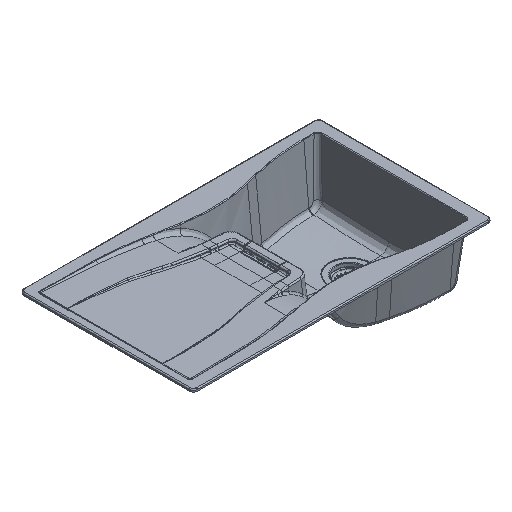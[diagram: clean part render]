
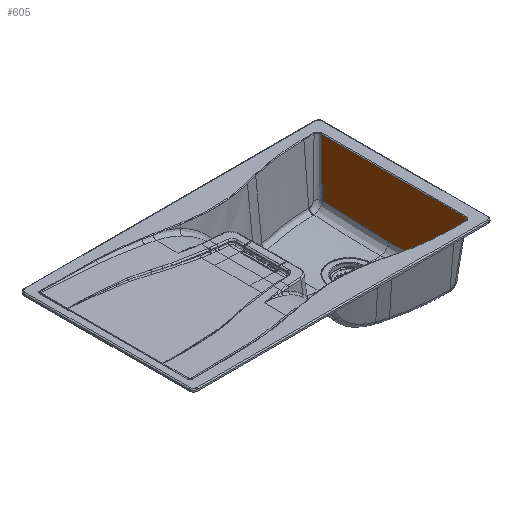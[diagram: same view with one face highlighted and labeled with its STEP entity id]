
A CAD part, isometric view. The second image highlights one B-rep face of the part: STEP entity #605.
In plain terms, the highlighted planar face has unit normal (-0.996, 0, 0.087).
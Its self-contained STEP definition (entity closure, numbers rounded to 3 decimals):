
#605=ADVANCED_FACE('',(#1263),#8994,.T.);
#1263=FACE_OUTER_BOUND('',#1921,.T.);
#1921=EDGE_LOOP('',(#4572,#4573,#4574,#4575,#4576));
#4572=ORIENTED_EDGE('',*,*,#6125,.T.);
#4573=ORIENTED_EDGE('',*,*,#6308,.T.);
#4574=ORIENTED_EDGE('',*,*,#6317,.T.);
#4575=ORIENTED_EDGE('',*,*,#6314,.T.);
#4576=ORIENTED_EDGE('',*,*,#6309,.T.);
#6125=EDGE_CURVE('',#8729,#8728,#7643,.T.);
#6308=EDGE_CURVE('',#8728,#8838,#7826,.T.);
#6309=EDGE_CURVE('',#8839,#8729,#7827,.T.);
#6314=EDGE_CURVE('',#8841,#8839,#7832,.T.);
#6317=EDGE_CURVE('',#8838,#8841,#7835,.T.);
#7643=B_SPLINE_CURVE_WITH_KNOTS('',1,(#69678,#69679),.UNSPECIFIED.,.F.,
 .F.,(2,2),(2.,3.),.UNSPECIFIED.);
#7826=B_SPLINE_CURVE_WITH_KNOTS('',3,(#71934,#71935,#71936,#71937,#71938,
#71939,#71940,#71941,#71942,#71943),.UNSPECIFIED.,.F.,.F.,(4,1,1,1,1,1,
1,4),(1.,1.143,1.286,1.429,1.571,
1.714,1.857,2.),.UNSPECIFIED.);
#7827=B_SPLINE_CURVE_WITH_KNOTS('',3,(#71944,#71945,#71946,#71947,#71948,
#71949,#71950,#71951,#71952,#71953),.UNSPECIFIED.,.F.,.F.,(4,1,1,1,1,1,
1,4),(3.,3.143,3.286,3.429,3.571,
3.714,3.857,4.),.UNSPECIFIED.);
#7832=B_SPLINE_CURVE_WITH_KNOTS('',3,(#72103,#72104,#72105,#72106,#72107,
#72108,#72109,#72110,#72111,#72112,#72113,#72114,#72115,#72116,#72117,#72118,
#72119,#72120,#72121,#72122,#72123,#72124,#72125,#72126,#72127,#72128,#72129,
#72130,#72131,#72132,#72133,#72134,#72135,#72136,#72137,#72138,#72139,#72140,
#72141),.UNSPECIFIED.,.F.,.F.,(4,1,1,1,1,1,1,1,1,1,1,1,1,1,1,1,1,1,1,1,
1,1,1,1,1,1,1,1,1,1,1,1,1,1,1,1,4),(3.,3.028,3.056,
3.083,3.111,3.139,3.167,3.194,
3.222,3.25,3.278,3.306,3.333,3.361,
3.389,3.417,3.444,3.472,3.5,3.528,
3.556,3.583,3.611,3.639,3.667,
3.694,3.722,3.75,3.778,3.806,3.833,
3.861,3.889,3.917,3.944,3.972,
4.),.UNSPECIFIED.);
#7835=B_SPLINE_CURVE_WITH_KNOTS('',3,(#72217,#72218,#72219,#72220,#72221,
#72222,#72223,#72224,#72225,#72226,#72227,#72228,#72229,#72230,#72231,#72232,
#72233,#72234,#72235,#72236,#72237,#72238,#72239,#72240,#72241,#72242,#72243,
#72244,#72245,#72246,#72247,#72248,#72249,#72250,#72251,#72252,#72253,#72254,
#72255),.UNSPECIFIED.,.F.,.F.,(4,1,1,1,1,1,1,1,1,1,1,1,1,1,1,1,1,1,1,1,
1,1,1,1,1,1,1,1,1,1,1,1,1,1,1,1,4),(1.,1.028,1.056,
1.083,1.111,1.139,1.167,1.194,
1.222,1.25,1.278,1.306,1.333,1.361,
1.389,1.417,1.444,1.472,1.5,1.528,
1.556,1.583,1.611,1.639,1.667,
1.694,1.722,1.75,1.778,1.806,1.833,
1.861,1.889,1.917,1.944,1.972,
2.),.UNSPECIFIED.);
#8728=VERTEX_POINT('',#65110);
#8729=VERTEX_POINT('',#65111);
#8838=VERTEX_POINT('',#65220);
#8839=VERTEX_POINT('',#65221);
#8841=VERTEX_POINT('',#65223);
#8994=PLANE('',#9566);
#9566=AXIS2_PLACEMENT_3D('',#59726,#9619,$);
#9619=DIRECTION('',(-0.996,0.,0.087));
#59726=CARTESIAN_POINT('',(415.411,151.066,1.33));
#65110=CARTESIAN_POINT('',(415.135,142.795,-1.826));
#65111=CARTESIAN_POINT('',(415.135,-270.795,-1.826));
#65220=CARTESIAN_POINT('',(401.897,127.235,-153.127));
#65221=CARTESIAN_POINT('',(401.897,-255.235,-153.127));
#65223=CARTESIAN_POINT('',(401.332,-64.,-159.586));
#69678=CARTESIAN_POINT('',(415.135,-270.795,-1.826));
#69679=CARTESIAN_POINT('',(415.135,142.795,-1.826));
#71934=CARTESIAN_POINT('',(415.135,142.795,-1.826));
#71935=CARTESIAN_POINT('',(414.626,142.147,-7.638));
#71936=CARTESIAN_POINT('',(413.585,140.835,-19.54));
#71937=CARTESIAN_POINT('',(411.956,138.83,-38.153));
#71938=CARTESIAN_POINT('',(410.243,136.765,-57.736));
#71939=CARTESIAN_POINT('',(408.428,134.625,-78.479));
#71940=CARTESIAN_POINT('',(406.478,132.371,-100.774));
#71941=CARTESIAN_POINT('',(404.35,129.96,-125.089));
#71942=CARTESIAN_POINT('',(402.743,128.169,-143.465));
#71943=CARTESIAN_POINT('',(401.897,127.235,-153.127));
#71944=CARTESIAN_POINT('',(401.897,-255.235,-153.127));
#71945=CARTESIAN_POINT('',(402.743,-256.169,-143.465));
#71946=CARTESIAN_POINT('',(404.351,-257.96,-125.088));
#71947=CARTESIAN_POINT('',(406.478,-260.371,-100.773));
#71948=CARTESIAN_POINT('',(408.428,-262.625,-78.478));
#71949=CARTESIAN_POINT('',(410.243,-264.766,-57.735));
#71950=CARTESIAN_POINT('',(411.956,-266.83,-38.152));
#71951=CARTESIAN_POINT('',(413.585,-268.835,-19.54));
#71952=CARTESIAN_POINT('',(414.626,-270.147,-7.638));
#71953=CARTESIAN_POINT('',(415.135,-270.795,-1.826));
#72103=CARTESIAN_POINT('',(401.332,-64.,-159.586));
#72104=CARTESIAN_POINT('',(401.332,-65.583,-159.586));
#72105=CARTESIAN_POINT('',(401.333,-68.738,-159.582));
#72106=CARTESIAN_POINT('',(401.334,-73.415,-159.562));
#72107=CARTESIAN_POINT('',(401.337,-78.114,-159.529));
#72108=CARTESIAN_POINT('',(401.341,-82.805,-159.483));
#72109=CARTESIAN_POINT('',(401.347,-87.503,-159.424));
#72110=CARTESIAN_POINT('',(401.353,-92.219,-159.354));
#72111=CARTESIAN_POINT('',(401.36,-96.957,-159.271));
#72112=CARTESIAN_POINT('',(401.368,-101.726,-159.177));
#72113=CARTESIAN_POINT('',(401.377,-106.543,-159.071));
#72114=CARTESIAN_POINT('',(401.388,-111.421,-158.953));
#72115=CARTESIAN_POINT('',(401.399,-116.359,-158.824));
#72116=CARTESIAN_POINT('',(401.411,-121.364,-158.684));
#72117=CARTESIAN_POINT('',(401.425,-126.493,-158.531));
#72118=CARTESIAN_POINT('',(401.439,-131.786,-158.364));
#72119=CARTESIAN_POINT('',(401.455,-137.227,-158.184));
#72120=CARTESIAN_POINT('',(401.472,-142.705,-157.995));
#72121=CARTESIAN_POINT('',(401.489,-148.099,-157.801));
#72122=CARTESIAN_POINT('',(401.506,-153.42,-157.604));
#72123=CARTESIAN_POINT('',(401.524,-158.798,-157.399));
#72124=CARTESIAN_POINT('',(401.543,-164.353,-157.181));
#72125=CARTESIAN_POINT('',(401.563,-170.075,-156.952));
#72126=CARTESIAN_POINT('',(401.584,-175.847,-156.715));
#72127=CARTESIAN_POINT('',(401.604,-181.548,-156.477));
#72128=CARTESIAN_POINT('',(401.625,-187.149,-156.238));
#72129=CARTESIAN_POINT('',(401.647,-192.864,-155.992));
#72130=CARTESIAN_POINT('',(401.671,-199.106,-155.718));
#72131=CARTESIAN_POINT('',(401.697,-205.891,-155.417));
#72132=CARTESIAN_POINT('',(401.723,-212.565,-155.117));
#72133=CARTESIAN_POINT('',(401.748,-218.648,-154.84));
#72134=CARTESIAN_POINT('',(401.77,-224.182,-154.586));
#72135=CARTESIAN_POINT('',(401.791,-229.403,-154.344));
#72136=CARTESIAN_POINT('',(401.812,-234.535,-154.105));
#72137=CARTESIAN_POINT('',(401.833,-239.693,-153.863));
#72138=CARTESIAN_POINT('',(401.854,-244.861,-153.62));
#72139=CARTESIAN_POINT('',(401.876,-250.015,-153.376));
#72140=CARTESIAN_POINT('',(401.89,-253.491,-153.21));
#72141=CARTESIAN_POINT('',(401.897,-255.235,-153.127));
#72217=CARTESIAN_POINT('',(401.897,127.235,-153.127));
#72218=CARTESIAN_POINT('',(401.89,125.509,-153.209));
#72219=CARTESIAN_POINT('',(401.876,122.058,-153.374));
#72220=CARTESIAN_POINT('',(401.854,116.881,-153.619));
#72221=CARTESIAN_POINT('',(401.833,111.712,-153.863));
#72222=CARTESIAN_POINT('',(401.812,106.57,-154.104));
#72223=CARTESIAN_POINT('',(401.791,101.328,-154.348));
#72224=CARTESIAN_POINT('',(401.768,95.714,-154.607));
#72225=CARTESIAN_POINT('',(401.743,89.443,-154.895));
#72226=CARTESIAN_POINT('',(401.716,82.637,-155.204));
#72227=CARTESIAN_POINT('',(401.69,75.964,-155.503));
#72228=CARTESIAN_POINT('',(401.666,69.871,-155.773));
#72229=CARTESIAN_POINT('',(401.644,64.188,-156.021));
#72230=CARTESIAN_POINT('',(401.623,58.56,-156.264));
#72231=CARTESIAN_POINT('',(401.602,52.828,-156.507));
#72232=CARTESIAN_POINT('',(401.581,47.044,-156.748));
#72233=CARTESIAN_POINT('',(401.56,41.332,-156.982));
#72234=CARTESIAN_POINT('',(401.541,35.796,-157.203));
#72235=CARTESIAN_POINT('',(401.522,30.421,-157.413));
#72236=CARTESIAN_POINT('',(401.505,25.084,-157.617));
#72237=CARTESIAN_POINT('',(401.487,19.667,-157.817));
#72238=CARTESIAN_POINT('',(401.47,14.162,-158.014));
#72239=CARTESIAN_POINT('',(401.453,8.697,-158.202));
#72240=CARTESIAN_POINT('',(401.438,3.399,-158.377));
#72241=CARTESIAN_POINT('',(401.424,-1.724,-158.537));
#72242=CARTESIAN_POINT('',(401.411,-6.735,-158.686));
#72243=CARTESIAN_POINT('',(401.399,-11.68,-158.825));
#72244=CARTESIAN_POINT('',(401.388,-16.565,-158.953));
#72245=CARTESIAN_POINT('',(401.378,-21.39,-159.069));
#72246=CARTESIAN_POINT('',(401.368,-26.167,-159.174));
#72247=CARTESIAN_POINT('',(401.36,-30.915,-159.269));
#72248=CARTESIAN_POINT('',(401.353,-35.639,-159.351));
#72249=CARTESIAN_POINT('',(401.347,-40.347,-159.422));
#72250=CARTESIAN_POINT('',(401.342,-45.047,-159.481));
#72251=CARTESIAN_POINT('',(401.337,-49.756,-159.528));
#72252=CARTESIAN_POINT('',(401.335,-54.439,-159.561));
#72253=CARTESIAN_POINT('',(401.333,-59.196,-159.582));
#72254=CARTESIAN_POINT('',(401.332,-62.393,-159.586));
#72255=CARTESIAN_POINT('',(401.332,-64.,-159.586));
